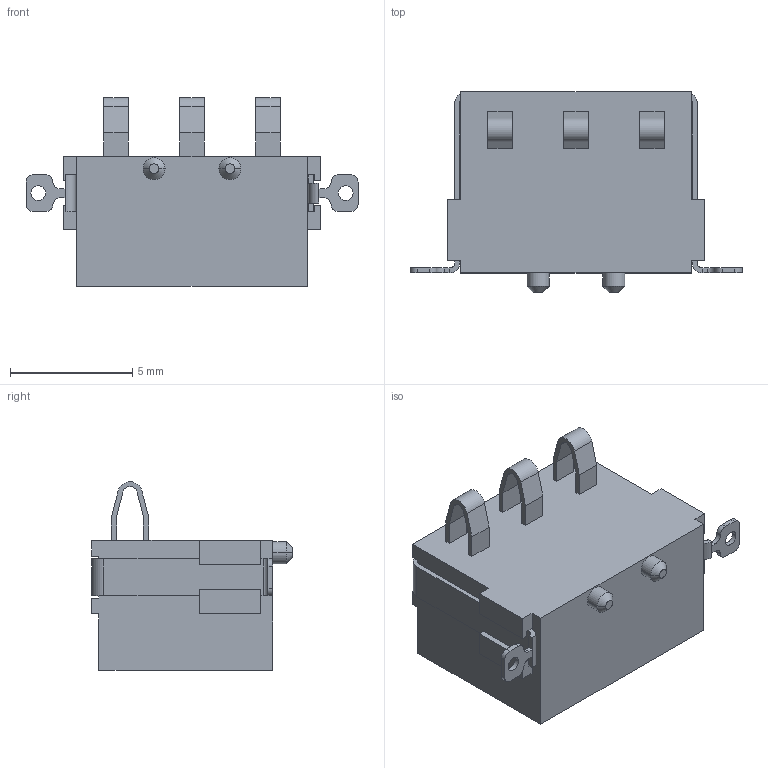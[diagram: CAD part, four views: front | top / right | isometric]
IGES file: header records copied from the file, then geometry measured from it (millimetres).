
Start section:  PTC IGES file: batt-conn-octek-03jax_prt.igs
Global section: file name: batt-conn-octek-03jax_prt.igs; native system: Pro/ENGINEER by Parametric Technology Corporation; preprocessor: 2006170; author: GRA; organization: Unknown; date: 20080630.105137; units: millimetre
Bounding box: 13.55 x 8.2 x 7.7 mm (x, y, z)
Surface area: 465.7 mm2 (no closed solid volume)
Topology: 0 solids, 0 shells, 148 faces, 896 edges, 896 vertices
Faces by surface type: bspline 108, revolution 40
